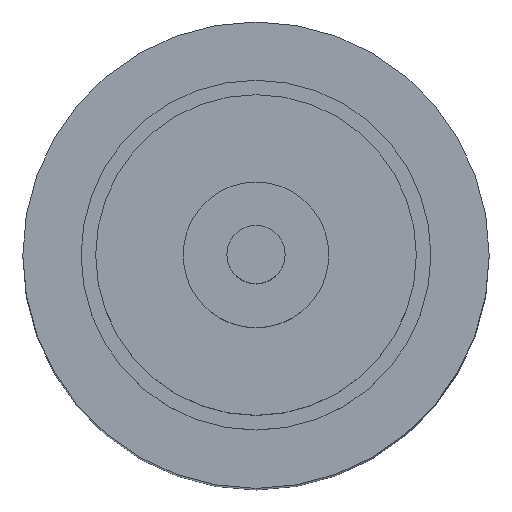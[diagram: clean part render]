
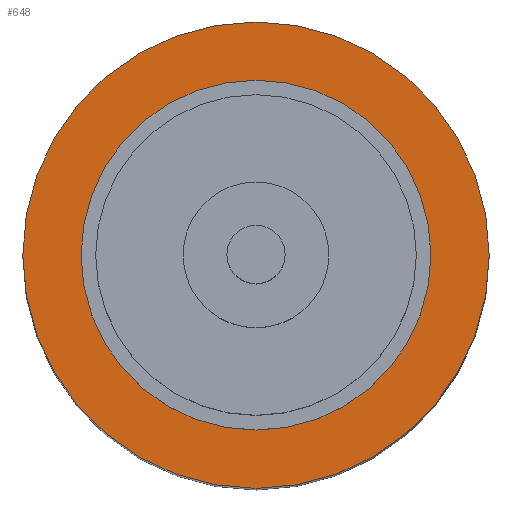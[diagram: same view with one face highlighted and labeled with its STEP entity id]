
A CAD part, top view. The second image highlights one B-rep face of the part: STEP entity #648.
In plain terms, the highlighted planar face has unit normal (0, 0, 1).
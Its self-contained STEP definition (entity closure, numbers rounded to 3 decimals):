
#621=CARTESIAN_POINT('',(0.0,-1.5,0.0));
#622=DIRECTION('',(0.0,0.0,1.0));
#623=DIRECTION('',(1.0,0.0,0.0));
#624=AXIS2_PLACEMENT_3D('',#621,#622,#623);
#625=PLANE('',#624);
#626=CARTESIAN_POINT('',(0.0,-4.,0.0));
#627=VERTEX_POINT('',#626);
#628=CARTESIAN_POINT('',(0.0,0.,0.));
#629=DIRECTION('',(0.0,0.0,1.0));
#630=DIRECTION('',(0.0,-1.0,0.0));
#631=AXIS2_PLACEMENT_3D('',#628,#629,#630);
#632=CIRCLE('',#631,4.);
#633=EDGE_CURVE('',#627,#627,#632,.T.);
#634=ORIENTED_EDGE('',*,*,#633,.T.);
#635=EDGE_LOOP('',(#634));
#636=FACE_OUTER_BOUND('',#635,.T.);
#637=CARTESIAN_POINT('',(0.0,-3.0,0.0));
#638=VERTEX_POINT('',#637);
#639=CARTESIAN_POINT('',(0.0,0.,0.0));
#640=DIRECTION('',(0.0,0.0,1.0));
#641=DIRECTION('',(0.0,-1.0,0.0));
#642=AXIS2_PLACEMENT_3D('',#639,#640,#641);
#643=CIRCLE('',#642,3.0);
#644=EDGE_CURVE('',#638,#638,#643,.T.);
#645=ORIENTED_EDGE('',*,*,#644,.F.);
#646=EDGE_LOOP('',(#645));
#647=FACE_BOUND('',#646,.T.);
#648=ADVANCED_FACE('',(#636,#647),#625,.T.);
